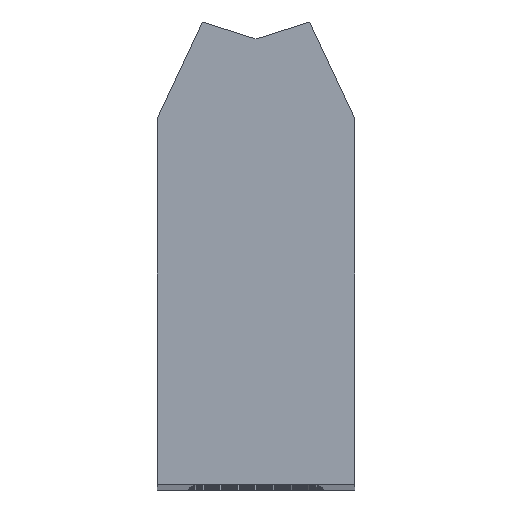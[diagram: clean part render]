
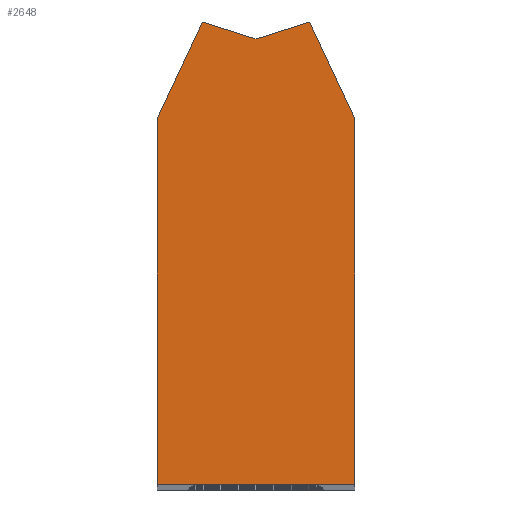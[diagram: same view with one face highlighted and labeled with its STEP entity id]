
A CAD part, top view. The second image highlights one B-rep face of the part: STEP entity #2648.
In plain terms, the highlighted planar face has unit normal (0, 0, 1).
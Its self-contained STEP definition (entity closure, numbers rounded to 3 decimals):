
#148 = DIRECTION ( 'NONE',  ( 1., 0., 0. ) ) ;
#155 = VECTOR ( 'NONE', #2338, 1000. ) ;
#326 = CARTESIAN_POINT ( 'NONE',  ( 0., 78.787, 299.75 ) ) ;
#344 = CARTESIAN_POINT ( 'NONE',  ( 17.5, 0., 299.75 ) ) ;
#352 = ORIENTED_EDGE ( 'NONE', *, *, #1408, .T. ) ;
#379 = VERTEX_POINT ( 'NONE', #1330 ) ;
#380 = CARTESIAN_POINT ( 'NONE',  ( -17.5, 64.626, 299.75 ) ) ;
#396 = VERTEX_POINT ( 'NONE', #2828 ) ;
#399 = LINE ( 'NONE', #944, #2784 ) ;
#502 = VERTEX_POINT ( 'NONE', #1376 ) ;
#594 = DIRECTION ( 'NONE',  ( 0., -1., 0. ) ) ;
#623 = DIRECTION ( 'NONE',  ( 1., 0., 0. ) ) ;
#642 = CARTESIAN_POINT ( 'NONE',  ( -9.5, 81.782, 299.75 ) ) ;
#666 = CARTESIAN_POINT ( 'NONE',  ( -9.5, 81.782, 299.75 ) ) ;
#790 = CARTESIAN_POINT ( 'NONE',  ( 17.5, 64.626, 299.75 ) ) ;
#921 = LINE ( 'NONE', #666, #1802 ) ;
#944 = CARTESIAN_POINT ( 'NONE',  ( -17.5, 0., 299.75 ) ) ;
#951 = LINE ( 'NONE', #1410, #2369 ) ;
#1056 = EDGE_CURVE ( 'NONE', #502, #2938, #399, .T. ) ;
#1058 = PLANE ( 'NONE',  #1339 ) ;
#1159 = CARTESIAN_POINT ( 'NONE',  ( 0., 78.787, 299.75 ) ) ;
#1162 = DIRECTION ( 'NONE',  ( -0.423, -0.906, 0. ) ) ;
#1223 = DIRECTION ( 'NONE',  ( -0.423, 0.906, 0. ) ) ;
#1330 = CARTESIAN_POINT ( 'NONE',  ( 17.5, 64.626, 299.75 ) ) ;
#1339 = AXIS2_PLACEMENT_3D ( 'NONE', #3049, #1814, #623 ) ;
#1349 = ORIENTED_EDGE ( 'NONE', *, *, #1393, .T. ) ;
#1366 = VERTEX_POINT ( 'NONE', #2458 ) ;
#1376 = CARTESIAN_POINT ( 'NONE',  ( -17.5, 0., 299.75 ) ) ;
#1380 = VECTOR ( 'NONE', #2368, 1000. ) ;
#1393 = EDGE_CURVE ( 'NONE', #2213, #396, #921, .T. ) ;
#1408 = EDGE_CURVE ( 'NONE', #1366, #1745, #951, .T. ) ;
#1410 = CARTESIAN_POINT ( 'NONE',  ( 9.5, 81.782, 299.75 ) ) ;
#1547 = VECTOR ( 'NONE', #594, 1000. ) ;
#1549 = FACE_OUTER_BOUND ( 'NONE', #2557, .T. ) ;
#1615 = EDGE_CURVE ( 'NONE', #2938, #379, #3055, .T. ) ;
#1646 = VECTOR ( 'NONE', #1223, 1000. ) ;
#1726 = ORIENTED_EDGE ( 'NONE', *, *, #2405, .T. ) ;
#1729 = LINE ( 'NONE', #790, #1646 ) ;
#1745 = VERTEX_POINT ( 'NONE', #1159 ) ;
#1788 = ORIENTED_EDGE ( 'NONE', *, *, #1615, .T. ) ;
#1795 = LINE ( 'NONE', #380, #1547 ) ;
#1802 = VECTOR ( 'NONE', #1162, 1000. ) ;
#1814 = DIRECTION ( 'NONE',  ( 0., 0., 1. ) ) ;
#1828 = LINE ( 'NONE', #326, #155 ) ;
#1886 = ORIENTED_EDGE ( 'NONE', *, *, #2106, .T. ) ;
#1977 = ORIENTED_EDGE ( 'NONE', *, *, #1056, .T. ) ;
#2106 = EDGE_CURVE ( 'NONE', #1745, #2213, #1828, .T. ) ;
#2213 = VERTEX_POINT ( 'NONE', #642 ) ;
#2338 = DIRECTION ( 'NONE',  ( -0.954, 0.301, 0. ) ) ;
#2368 = DIRECTION ( 'NONE',  ( 0., 1., 0. ) ) ;
#2369 = VECTOR ( 'NONE', #3154, 1000. ) ;
#2405 = EDGE_CURVE ( 'NONE', #379, #1366, #1729, .T. ) ;
#2458 = CARTESIAN_POINT ( 'NONE',  ( 9.5, 81.782, 299.75 ) ) ;
#2557 = EDGE_LOOP ( 'NONE', ( #1886, #1349, #2967, #1977, #1788, #1726, #352 ) ) ;
#2626 = CARTESIAN_POINT ( 'NONE',  ( 17.5, 0., 299.75 ) ) ;
#2648 = ADVANCED_FACE ( 'NONE', ( #1549 ), #1058, .T. ) ;
#2664 = EDGE_CURVE ( 'NONE', #396, #502, #1795, .T. ) ;
#2784 = VECTOR ( 'NONE', #148, 1000. ) ;
#2828 = CARTESIAN_POINT ( 'NONE',  ( -17.5, 64.626, 299.75 ) ) ;
#2938 = VERTEX_POINT ( 'NONE', #344 ) ;
#2967 = ORIENTED_EDGE ( 'NONE', *, *, #2664, .T. ) ;
#3049 = CARTESIAN_POINT ( 'NONE',  ( 0., 0., 299.75 ) ) ;
#3055 = LINE ( 'NONE', #2626, #1380 ) ;
#3154 = DIRECTION ( 'NONE',  ( -0.954, -0.301, 0. ) ) ;
